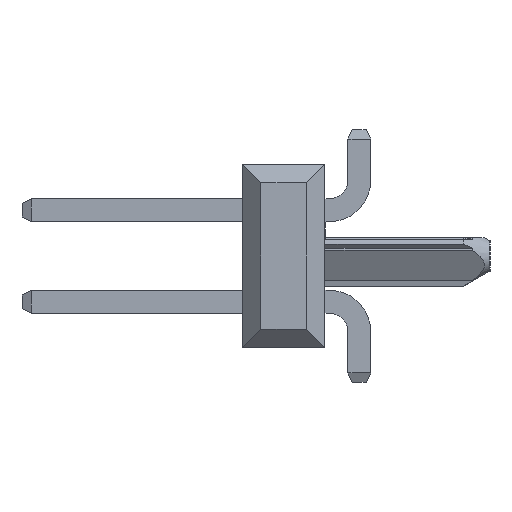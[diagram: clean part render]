
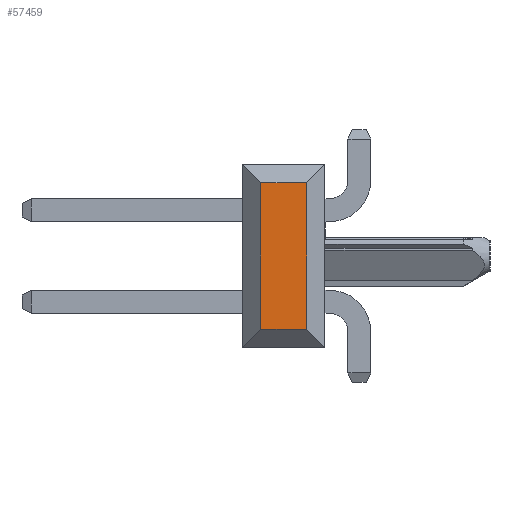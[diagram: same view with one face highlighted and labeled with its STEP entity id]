
A CAD part, left-side view. The second image highlights one B-rep face of the part: STEP entity #57459.
In plain terms, the highlighted planar face has unit normal (-1, 0, 0).
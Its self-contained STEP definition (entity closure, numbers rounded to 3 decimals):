
#19833=DIRECTION('',(0.,0.,1.));
#19834=VECTOR('',#19833,4.064);
#19835=CARTESIAN_POINT('',(-46.99,-0.635,-2.032));
#19836=LINE('',#19835,#19834);
#19845=DIRECTION('',(0.,0.,1.));
#19846=VECTOR('',#19845,4.064);
#19847=CARTESIAN_POINT('',(-46.99,0.635,-2.032));
#19848=LINE('',#19847,#19846);
#19849=DIRECTION('',(0.,-1.,0.));
#19850=VECTOR('',#19849,1.27);
#19851=CARTESIAN_POINT('',(-46.99,0.635,2.032));
#19852=LINE('',#19851,#19850);
#19853=DIRECTION('',(0.,-1.,0.));
#19854=VECTOR('',#19853,1.27);
#19855=CARTESIAN_POINT('',(-46.99,0.635,-2.032));
#19856=LINE('',#19855,#19854);
#19905=CARTESIAN_POINT('',(-46.99,0.635,-2.032));
#19906=CARTESIAN_POINT('',(-46.99,0.635,2.032));
#19907=VERTEX_POINT('',#19905);
#19908=VERTEX_POINT('',#19906);
#19909=CARTESIAN_POINT('',(-46.99,-0.635,-2.032));
#19910=CARTESIAN_POINT('',(-46.99,-0.635,2.032));
#19911=VERTEX_POINT('',#19909);
#19912=VERTEX_POINT('',#19910);
#57445=CARTESIAN_POINT('',(-46.99,0.635,-2.54));
#57446=DIRECTION('',(-1.,0.,0.));
#57447=DIRECTION('',(0.,-1.,0.));
#57448=AXIS2_PLACEMENT_3D('',#57445,#57446,#57447);
#57449=PLANE('',#57448);
#57451=ORIENTED_EDGE('',*,*,#57450,.T.);
#57453=ORIENTED_EDGE('',*,*,#57452,.T.);
#57454=ORIENTED_EDGE('',*,*,#57435,.F.);
#57456=ORIENTED_EDGE('',*,*,#57455,.F.);
#57457=EDGE_LOOP('',(#57451,#57453,#57454,#57456));
#57458=FACE_OUTER_BOUND('',#57457,.F.);
#57459=ADVANCED_FACE('',(#57458),#57449,.T.);
#57435=EDGE_CURVE('',#19911,#19912,#19836,.T.);
#57450=EDGE_CURVE('',#19907,#19908,#19848,.T.);
#57452=EDGE_CURVE('',#19908,#19912,#19852,.T.);
#57455=EDGE_CURVE('',#19907,#19911,#19856,.T.);
